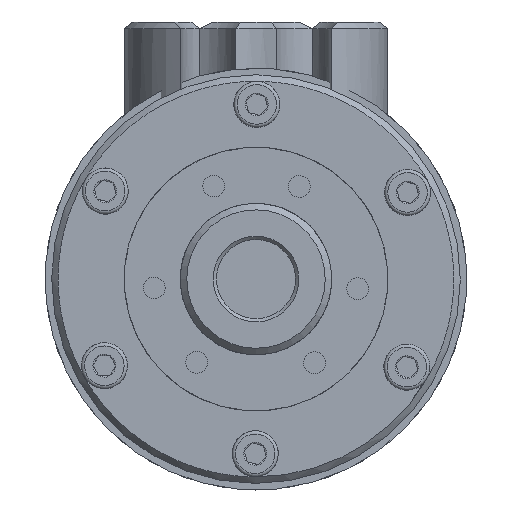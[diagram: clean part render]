
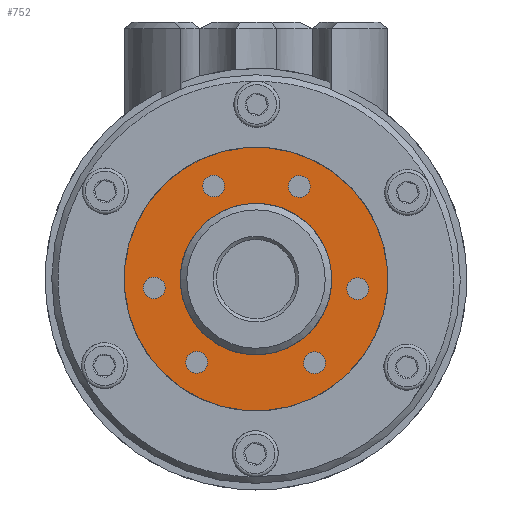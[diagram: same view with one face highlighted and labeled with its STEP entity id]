
A CAD part, left-side view. The second image highlights one B-rep face of the part: STEP entity #752.
In plain terms, the highlighted planar face has unit normal (-1, 0, 0) as drawn and (0, -1, 0) by its records, which use the part's own axes.
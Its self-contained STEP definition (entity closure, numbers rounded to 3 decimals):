
#752 = ADVANCED_FACE( '', ( #1419, #1420, #1421, #1422, #1423, #1424, #1425, #1426 ), #1427, .F. );
#1419 = FACE_OUTER_BOUND( '', #2527, .T. );
#1420 = FACE_BOUND( '', #2528, .T. );
#1421 = FACE_BOUND( '', #2529, .T. );
#1422 = FACE_BOUND( '', #2530, .T. );
#1423 = FACE_BOUND( '', #2531, .T. );
#1424 = FACE_BOUND( '', #2532, .T. );
#1425 = FACE_BOUND( '', #2533, .T. );
#1426 = FACE_BOUND( '', #2534, .T. );
#1427 = PLANE( '', #2535 );
#2527 = EDGE_LOOP( '', ( #4389 ) );
#2528 = EDGE_LOOP( '', ( #4390 ) );
#2529 = EDGE_LOOP( '', ( #4391 ) );
#2530 = EDGE_LOOP( '', ( #4392 ) );
#2531 = EDGE_LOOP( '', ( #4393 ) );
#2532 = EDGE_LOOP( '', ( #4394 ) );
#2533 = EDGE_LOOP( '', ( #4395 ) );
#2534 = EDGE_LOOP( '', ( #4396 ) );
#2535 = AXIS2_PLACEMENT_3D( '', #4397, #4398, #4399 );
#4389 = ORIENTED_EDGE( '', *, *, #6839, .T. );
#4390 = ORIENTED_EDGE( '', *, *, #6851, .F. );
#4391 = ORIENTED_EDGE( '', *, *, #6852, .F. );
#4392 = ORIENTED_EDGE( '', *, *, #6853, .F. );
#4393 = ORIENTED_EDGE( '', *, *, #6849, .F. );
#4394 = ORIENTED_EDGE( '', *, *, #6840, .F. );
#4395 = ORIENTED_EDGE( '', *, *, #6848, .F. );
#4396 = ORIENTED_EDGE( '', *, *, #6850, .F. );
#4397 = CARTESIAN_POINT( '', ( 0., 0., 20. ) );
#4398 = DIRECTION( '', ( 0., 1., 0. ) );
#4399 = DIRECTION( '', ( 1., 0., 0. ) );
#6839 = EDGE_CURVE( '', #7773, #7773, #7774, .T. );
#6840 = EDGE_CURVE( '', #7775, #7775, #7776, .T. );
#6848 = EDGE_CURVE( '', #7791, #7791, #7792, .T. );
#6849 = EDGE_CURVE( '', #7793, #7793, #7794, .T. );
#6850 = EDGE_CURVE( '', #7795, #7795, #7796, .T. );
#6851 = EDGE_CURVE( '', #7797, #7797, #7798, .T. );
#6852 = EDGE_CURVE( '', #7799, #7799, #7800, .T. );
#6853 = EDGE_CURVE( '', #7801, #7801, #7802, .T. );
#7773 = VERTEX_POINT( '', #9507 );
#7774 = CIRCLE( '', #9508, 20. );
#7775 = VERTEX_POINT( '', #9509 );
#7776 = CIRCLE( '', #9510, 1.65 );
#7791 = VERTEX_POINT( '', #9525 );
#7792 = CIRCLE( '', #9526, 1.65 );
#7793 = VERTEX_POINT( '', #9527 );
#7794 = CIRCLE( '', #9528, 1.65 );
#7795 = VERTEX_POINT( '', #9529 );
#7796 = CIRCLE( '', #9530, 11.5 );
#7797 = VERTEX_POINT( '', #9531 );
#7798 = CIRCLE( '', #9532, 1.65 );
#7799 = VERTEX_POINT( '', #9533 );
#7800 = CIRCLE( '', #9534, 1.65 );
#7801 = VERTEX_POINT( '', #9535 );
#7802 = CIRCLE( '', #9536, 1.65 );
#9507 = CARTESIAN_POINT( '', ( 0., 0., -20. ) );
#9508 = AXIS2_PLACEMENT_3D( '', #11680, #11681, #11682 );
#9509 = CARTESIAN_POINT( '', ( -8.398, 0., 11.802 ) );
#9510 = AXIS2_PLACEMENT_3D( '', #11683, #11684, #11685 );
#9525 = CARTESIAN_POINT( '', ( -13.85, 0., 0. ) );
#9526 = AXIS2_PLACEMENT_3D( '', #11707, #11708, #11709 );
#9527 = CARTESIAN_POINT( '', ( 6.925, 0., 11.994 ) );
#9528 = AXIS2_PLACEMENT_3D( '', #11710, #11711, #11712 );
#9529 = CARTESIAN_POINT( '', ( 0., 0., -11.5 ) );
#9530 = AXIS2_PLACEMENT_3D( '', #11713, #11714, #11715 );
#9531 = CARTESIAN_POINT( '', ( -6.021, 0., -13.174 ) );
#9532 = AXIS2_PLACEMENT_3D( '', #11716, #11717, #11718 );
#9533 = CARTESIAN_POINT( '', ( 6.925, 0., -11.994 ) );
#9534 = AXIS2_PLACEMENT_3D( '', #11719, #11720, #11721 );
#9535 = CARTESIAN_POINT( '', ( 14.42, 0., 1.372 ) );
#9536 = AXIS2_PLACEMENT_3D( '', #11722, #11723, #11724 );
#11680 = CARTESIAN_POINT( '', ( 0., 0., 0. ) );
#11681 = DIRECTION( '', ( 0., -1., 0. ) );
#11682 = DIRECTION( '', ( 0., 0., -1. ) );
#11683 = CARTESIAN_POINT( '', ( -10.048, 0., 11.802 ) );
#11684 = DIRECTION( '', ( 0., -1., 0. ) );
#11685 = DIRECTION( '', ( 1., 0., 0. ) );
#11707 = CARTESIAN_POINT( '', ( -15.5, 0., 0. ) );
#11708 = DIRECTION( '', ( 0., -1., 0. ) );
#11709 = DIRECTION( '', ( 1., 0., 0. ) );
#11710 = CARTESIAN_POINT( '', ( 7.75, 0., 13.423 ) );
#11711 = DIRECTION( '', ( 0., -1., 0. ) );
#11712 = DIRECTION( '', ( -0.5, 0., -0.866 ) );
#11713 = CARTESIAN_POINT( '', ( 0., 0., 0. ) );
#11714 = DIRECTION( '', ( 0., -1., 0. ) );
#11715 = DIRECTION( '', ( 0., 0., -1. ) );
#11716 = CARTESIAN_POINT( '', ( -5.196, 0., -14.603 ) );
#11717 = DIRECTION( '', ( 0., -1., 0. ) );
#11718 = DIRECTION( '', ( -0.5, 0., 0.866 ) );
#11719 = CARTESIAN_POINT( '', ( 7.75, 0., -13.423 ) );
#11720 = DIRECTION( '', ( 0., -1., 0. ) );
#11721 = DIRECTION( '', ( -0.5, 0., 0.866 ) );
#11722 = CARTESIAN_POINT( '', ( 15.245, 0., 2.801 ) );
#11723 = DIRECTION( '', ( 0., -1., 0. ) );
#11724 = DIRECTION( '', ( -0.5, 0., -0.866 ) );
